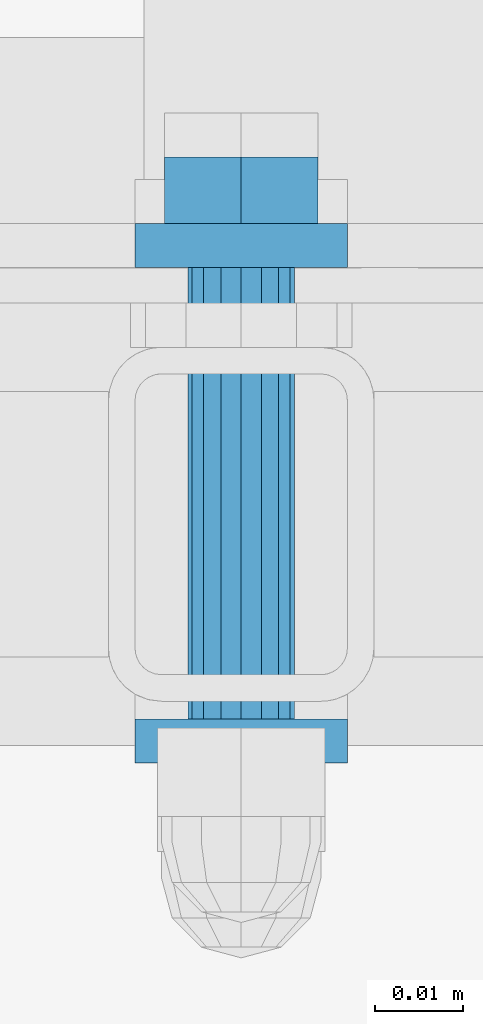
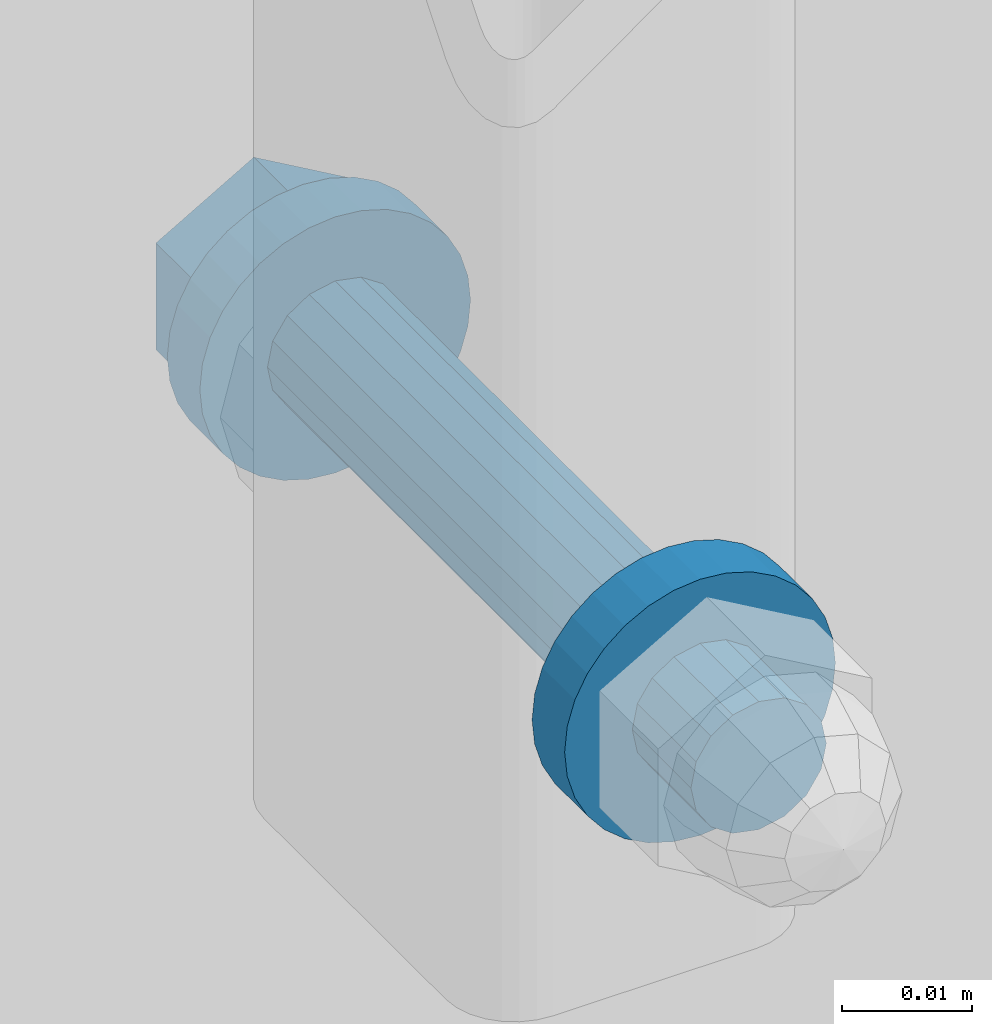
# One storey, part 66 of 116: 1 mechanical fastener.
"""IFC2X3 building model written with IfcOpenShell, lengths in millimetres."""

from ifc_helpers import new_model, entity, si_unit, converted_unit, origin_with_axes, place, context, project, spatial, faceted_brep, element, save


model = new_model("IFC2X3")

# Units and contexts
model_context = context("Model", 3, precision=1e-09, world=origin_with_axes())
ifc_project = project(units=[si_unit("LENGTHUNIT", "METRE", prefix="MILLI"), si_unit("AREAUNIT", "SQUARE_METRE"), si_unit("VOLUMEUNIT", "CUBIC_METRE"), converted_unit("PLANEANGLEUNIT", "DEGREE", entity("IfcPlaneAngleMeasure", 0.01745329), si_unit("PLANEANGLEUNIT", "RADIAN"), dimensions=[0, 0, 0, 0, 0, 0, 0])], contexts=[model_context])

# Site, building, storey
site_placement = place(None, origin_with_axes())
site = spatial("IfcSite", under=ifc_project, at=site_placement, Name="Site", CompositionType="ELEMENT")
building_placement = place(site_placement, origin_with_axes())
building = spatial("IfcBuilding", under=site, at=building_placement, Name="Struktur 1", CompositionType="ELEMENT")
storey_placement = place(building_placement, origin_with_axes())
storey = spatial("IfcBuildingStorey", under=building, at=storey_placement, Name="Default Storey", CompositionType="ELEMENT", Elevation=0.0)

# Mechanical fastener
mechanical_fastener_placement = place(None, origin_with_axes())
element("IfcMechanicalFastener", 1, at=mechanical_fastener_placement, inside=storey, ObjectType="-", NominalDiameter=12.0, NominalLength=70.0, context=model_context, shape_type="Brep", body=[
    faceted_brep([(59725.049134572, 9076.358883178, -923.0), (59725.049134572, 9078.858883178, -923.0), (59725.279711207, 9078.858883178, -925.341083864), (59725.279711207, 9076.358883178, -925.341083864), (59725.962580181, 9078.858883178, -927.592201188), (59725.962580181, 9076.358883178, -927.592201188), (59727.071499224, 9078.858883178, -929.666842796), (59727.071499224, 9076.358883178, -929.666842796), (59728.563853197, 9078.858883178, -931.485281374), (59728.563853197, 9076.358883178, -931.485281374), (59730.382291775, 9078.858883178, -932.977635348), (59730.382291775, 9076.358883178, -932.977635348), (59732.456933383, 9078.858883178, -934.08655439), (59732.456933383, 9076.358883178, -934.08655439), (59734.708050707, 9078.858883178, -934.769423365), (59734.708050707, 9076.358883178, -934.769423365), (59737.049134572, 9078.858883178, -935.0), (59737.049134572, 9076.358883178, -935.0), (59739.390218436, 9078.858883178, -934.769423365), (59739.390218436, 9076.358883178, -934.769423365), (59741.64133576, 9078.858883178, -934.08655439), (59741.64133576, 9076.358883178, -934.08655439), (59743.715977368, 9078.858883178, -932.977635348), (59743.715977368, 9076.358883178, -932.977635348), (59745.534415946, 9078.858883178, -931.485281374), (59745.534415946, 9076.358883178, -931.485281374), (59747.026769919, 9078.858883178, -929.666842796), (59747.026769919, 9076.358883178, -929.666842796), (59748.135688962, 9078.858883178, -927.592201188), (59748.135688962, 9076.358883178, -927.592201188), (59748.818557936, 9078.858883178, -925.341083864), (59748.818557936, 9076.358883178, -925.341083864), (59749.049134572, 9078.858883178, -923.0), (59749.049134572, 9076.358883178, -923.0), (59748.818557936, 9078.858883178, -920.658916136), (59748.818557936, 9076.358883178, -920.658916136), (59748.135688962, 9078.858883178, -918.407798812), (59748.135688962, 9076.358883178, -918.407798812), (59747.026769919, 9078.858883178, -916.333157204), (59747.026769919, 9076.358883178, -916.333157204), (59745.534415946, 9078.858883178, -914.514718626), (59745.534415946, 9076.358883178, -914.514718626), (59743.715977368, 9078.858883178, -913.022364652), (59743.715977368, 9076.358883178, -913.022364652), (59741.64133576, 9078.858883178, -911.91344561), (59741.64133576, 9076.358883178, -911.91344561), (59739.390218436, 9078.858883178, -911.230576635), (59739.390218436, 9076.358883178, -911.230576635), (59737.049134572, 9078.858883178, -911.0), (59737.049134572, 9076.358883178, -911.0), (59734.708050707, 9078.858883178, -911.230576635), (59734.708050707, 9076.358883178, -911.230576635), (59732.456933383, 9078.858883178, -911.91344561), (59732.456933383, 9076.358883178, -911.91344561), (59730.382291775, 9078.858883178, -913.022364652), (59730.382291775, 9076.358883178, -913.022364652), (59728.563853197, 9078.858883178, -914.514718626), (59728.563853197, 9076.358883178, -914.514718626), (59727.071499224, 9078.858883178, -916.333157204), (59727.071499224, 9076.358883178, -916.333157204), (59725.962580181, 9078.858883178, -918.407798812), (59725.962580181, 9076.358883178, -918.407798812), (59725.279711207, 9078.858883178, -920.658916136), (59725.279711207, 9076.358883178, -920.658916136)], [[[0, 1, 2, 3]], [[3, 2, 4, 5]], [[5, 4, 6, 7]], [[7, 6, 8, 9]], [[9, 8, 10, 11]], [[11, 10, 12, 13]], [[13, 12, 14, 15]], [[15, 14, 16, 17]], [[17, 16, 18, 19]], [[19, 18, 20, 21]], [[21, 20, 22, 23]], [[23, 22, 24, 25]], [[25, 24, 26, 27]], [[27, 26, 28, 29]], [[29, 28, 30, 31]], [[31, 30, 32, 33]], [[33, 32, 34, 35]], [[35, 34, 36, 37]], [[37, 36, 38, 39]], [[39, 38, 40, 41]], [[41, 40, 42, 43]], [[43, 42, 44, 45]], [[45, 44, 46, 47]], [[47, 46, 48, 49]], [[49, 48, 50, 51]], [[51, 50, 52, 53]], [[53, 52, 54, 55]], [[55, 54, 56, 57]], [[57, 56, 58, 59]], [[59, 58, 60, 61]], [[61, 60, 62, 63]], [[63, 62, 1, 0]], [[2, 1, 62, 60, 58, 56, 54, 52, 50, 48, 46, 44, 42, 40, 38, 36, 34, 32, 30, 28, 26, 24, 22, 20, 18, 16, 14, 12, 10, 8, 6, 4]], [[63, 0, 3, 5, 7, 9, 11, 13, 15, 17, 19, 21, 23, 25, 27, 29, 31, 33, 35, 37, 39, 41, 43, 45, 47, 49, 51, 53, 55, 57, 59, 61]]]),
    faceted_brep([(59725.049134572, 9078.858883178, -923.0), (59725.049134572, 9081.358883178, -923.0), (59725.279711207, 9081.358883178, -925.341083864), (59725.279711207, 9078.858883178, -925.341083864), (59725.962580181, 9081.358883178, -927.592201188), (59725.962580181, 9078.858883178, -927.592201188), (59727.071499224, 9081.358883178, -929.666842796), (59727.071499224, 9078.858883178, -929.666842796), (59728.563853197, 9081.358883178, -931.485281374), (59728.563853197, 9078.858883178, -931.485281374), (59730.382291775, 9081.358883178, -932.977635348), (59730.382291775, 9078.858883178, -932.977635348), (59732.456933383, 9081.358883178, -934.08655439), (59732.456933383, 9078.858883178, -934.08655439), (59734.708050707, 9081.358883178, -934.769423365), (59734.708050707, 9078.858883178, -934.769423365), (59737.049134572, 9081.358883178, -935.0), (59737.049134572, 9078.858883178, -935.0), (59739.390218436, 9081.358883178, -934.769423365), (59739.390218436, 9078.858883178, -934.769423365), (59741.64133576, 9081.358883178, -934.08655439), (59741.64133576, 9078.858883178, -934.08655439), (59743.715977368, 9081.358883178, -932.977635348), (59743.715977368, 9078.858883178, -932.977635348), (59745.534415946, 9081.358883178, -931.485281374), (59745.534415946, 9078.858883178, -931.485281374), (59747.026769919, 9081.358883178, -929.666842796), (59747.026769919, 9078.858883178, -929.666842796), (59748.135688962, 9081.358883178, -927.592201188), (59748.135688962, 9078.858883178, -927.592201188), (59748.818557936, 9081.358883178, -925.341083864), (59748.818557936, 9078.858883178, -925.341083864), (59749.049134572, 9081.358883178, -923.0), (59749.049134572, 9078.858883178, -923.0), (59748.818557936, 9081.358883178, -920.658916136), (59748.818557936, 9078.858883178, -920.658916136), (59748.135688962, 9081.358883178, -918.407798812), (59748.135688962, 9078.858883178, -918.407798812), (59747.026769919, 9081.358883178, -916.333157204), (59747.026769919, 9078.858883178, -916.333157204), (59745.534415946, 9081.358883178, -914.514718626), (59745.534415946, 9078.858883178, -914.514718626), (59743.715977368, 9081.358883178, -913.022364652), (59743.715977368, 9078.858883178, -913.022364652), (59741.64133576, 9081.358883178, -911.91344561), (59741.64133576, 9078.858883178, -911.91344561), (59739.390218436, 9081.358883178, -911.230576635), (59739.390218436, 9078.858883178, -911.230576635), (59737.049134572, 9081.358883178, -911.0), (59737.049134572, 9078.858883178, -911.0), (59734.708050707, 9081.358883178, -911.230576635), (59734.708050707, 9078.858883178, -911.230576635), (59732.456933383, 9081.358883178, -911.91344561), (59732.456933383, 9078.858883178, -911.91344561), (59730.382291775, 9081.358883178, -913.022364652), (59730.382291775, 9078.858883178, -913.022364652), (59728.563853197, 9081.358883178, -914.514718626), (59728.563853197, 9078.858883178, -914.514718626), (59727.071499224, 9081.358883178, -916.333157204), (59727.071499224, 9078.858883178, -916.333157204), (59725.962580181, 9081.358883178, -918.407798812), (59725.962580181, 9078.858883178, -918.407798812), (59725.279711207, 9081.358883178, -920.658916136), (59725.279711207, 9078.858883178, -920.658916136)], [[[0, 1, 2, 3]], [[3, 2, 4, 5]], [[5, 4, 6, 7]], [[7, 6, 8, 9]], [[9, 8, 10, 11]], [[11, 10, 12, 13]], [[13, 12, 14, 15]], [[15, 14, 16, 17]], [[17, 16, 18, 19]], [[19, 18, 20, 21]], [[21, 20, 22, 23]], [[23, 22, 24, 25]], [[25, 24, 26, 27]], [[27, 26, 28, 29]], [[29, 28, 30, 31]], [[31, 30, 32, 33]], [[33, 32, 34, 35]], [[35, 34, 36, 37]], [[37, 36, 38, 39]], [[39, 38, 40, 41]], [[41, 40, 42, 43]], [[43, 42, 44, 45]], [[45, 44, 46, 47]], [[47, 46, 48, 49]], [[49, 48, 50, 51]], [[51, 50, 52, 53]], [[53, 52, 54, 55]], [[55, 54, 56, 57]], [[57, 56, 58, 59]], [[59, 58, 60, 61]], [[61, 60, 62, 63]], [[63, 62, 1, 0]], [[2, 1, 62, 60, 58, 56, 54, 52, 50, 48, 46, 44, 42, 40, 38, 36, 34, 32, 30, 28, 26, 24, 22, 20, 18, 16, 14, 12, 10, 8, 6, 4]], [[63, 0, 3, 5, 7, 9, 11, 13, 15, 17, 19, 21, 23, 25, 27, 29, 31, 33, 35, 37, 39, 41, 43, 45, 47, 49, 51, 53, 55, 57, 59, 61]]]),
    faceted_brep([(59745.722378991, 9088.858883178, -928.0075), (59745.722378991, 9081.358883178, -928.0075), (59737.049134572, 9081.358883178, -933.015), (59737.049134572, 9088.858883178, -933.015), (59728.375890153, 9081.358883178, -928.0075), (59728.375890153, 9088.858883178, -928.0075), (59728.375890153, 9081.358883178, -917.9925), (59728.375890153, 9088.858883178, -917.9925), (59737.049134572, 9081.358883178, -912.985), (59737.049134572, 9088.858883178, -912.985), (59745.722378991, 9081.358883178, -917.9925), (59745.722378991, 9088.858883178, -917.9925)], [[[0, 1, 2, 3]], [[3, 2, 4, 5]], [[5, 4, 6, 7]], [[7, 6, 8, 9]], [[9, 8, 10, 11]], [[11, 10, 1, 0]], [[3, 5, 7, 9, 11, 0]], [[2, 1, 10, 8, 6, 4]]]),
    faceted_brep([(59731.049134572, 9025.359883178, -923.0), (59731.049134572, 9076.358883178, -923.0), (59731.505857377, 9076.358883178, -925.296100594), (59731.505857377, 9025.359883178, -925.296100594), (59732.806493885, 9076.358883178, -927.242640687), (59732.806493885, 9025.359883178, -927.242640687), (59734.753033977, 9076.358883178, -928.543277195), (59734.753033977, 9025.359883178, -928.543277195), (59737.049134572, 9076.358883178, -929.0), (59737.049134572, 9025.359883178, -929.0), (59739.345235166, 9076.358883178, -928.543277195), (59739.345235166, 9025.359883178, -928.543277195), (59741.291775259, 9076.358883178, -927.242640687), (59741.291775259, 9025.359883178, -927.242640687), (59742.592411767, 9076.358883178, -925.296100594), (59742.592411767, 9025.359883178, -925.296100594), (59743.049134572, 9076.358883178, -923.0), (59743.049134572, 9025.359883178, -923.0), (59742.592411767, 9076.358883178, -920.703899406), (59742.592411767, 9025.359883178, -920.703899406), (59741.291775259, 9076.358883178, -918.757359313), (59741.291775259, 9025.359883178, -918.757359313), (59739.345235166, 9076.358883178, -917.456722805), (59739.345235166, 9025.359883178, -917.456722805), (59737.049134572, 9076.358883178, -917.0), (59737.049134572, 9025.359883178, -917.0), (59734.753033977, 9076.358883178, -917.456722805), (59734.753033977, 9025.359883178, -917.456722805), (59732.806493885, 9076.358883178, -918.757359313), (59732.806493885, 9025.359883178, -918.757359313), (59731.505857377, 9076.358883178, -920.703899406), (59731.505857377, 9025.359883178, -920.703899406)], [[[0, 1, 2, 3]], [[3, 2, 4, 5]], [[5, 4, 6, 7]], [[7, 6, 8, 9]], [[9, 8, 10, 11]], [[11, 10, 12, 13]], [[13, 12, 14, 15]], [[15, 14, 16, 17]], [[17, 16, 18, 19]], [[19, 18, 20, 21]], [[21, 20, 22, 23]], [[23, 22, 24, 25]], [[25, 24, 26, 27]], [[27, 26, 28, 29]], [[29, 28, 30, 31]], [[31, 30, 1, 0]], [[2, 1, 30, 28, 26, 24, 22, 20, 18, 16, 14, 12, 10, 8, 6, 4]], [[31, 0, 3, 5, 7, 9, 11, 13, 15, 17, 19, 21, 23, 25, 27, 29]]]),
    faceted_brep([(59725.049134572, 9022.859883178, -923.0), (59725.049134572, 9025.359883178, -923.0), (59725.279711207, 9025.359883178, -925.341083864), (59725.279711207, 9022.859883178, -925.341083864), (59725.962580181, 9025.359883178, -927.592201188), (59725.962580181, 9022.859883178, -927.592201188), (59727.071499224, 9025.359883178, -929.666842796), (59727.071499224, 9022.859883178, -929.666842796), (59728.563853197, 9025.359883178, -931.485281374), (59728.563853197, 9022.859883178, -931.485281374), (59730.382291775, 9025.359883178, -932.977635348), (59730.382291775, 9022.859883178, -932.977635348), (59732.456933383, 9025.359883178, -934.08655439), (59732.456933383, 9022.859883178, -934.08655439), (59734.708050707, 9025.359883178, -934.769423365), (59734.708050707, 9022.859883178, -934.769423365), (59737.049134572, 9025.359883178, -935.0), (59737.049134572, 9022.859883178, -935.0), (59739.390218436, 9025.359883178, -934.769423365), (59739.390218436, 9022.859883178, -934.769423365), (59741.64133576, 9025.359883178, -934.08655439), (59741.64133576, 9022.859883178, -934.08655439), (59743.715977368, 9025.359883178, -932.977635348), (59743.715977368, 9022.859883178, -932.977635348), (59745.534415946, 9025.359883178, -931.485281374), (59745.534415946, 9022.859883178, -931.485281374), (59747.026769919, 9025.359883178, -929.666842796), (59747.026769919, 9022.859883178, -929.666842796), (59748.135688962, 9025.359883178, -927.592201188), (59748.135688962, 9022.859883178, -927.592201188), (59748.818557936, 9025.359883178, -925.341083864), (59748.818557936, 9022.859883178, -925.341083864), (59749.049134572, 9025.359883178, -923.0), (59749.049134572, 9022.859883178, -923.0), (59748.818557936, 9025.359883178, -920.658916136), (59748.818557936, 9022.859883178, -920.658916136), (59748.135688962, 9025.359883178, -918.407798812), (59748.135688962, 9022.859883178, -918.407798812), (59747.026769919, 9025.359883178, -916.333157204), (59747.026769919, 9022.859883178, -916.333157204), (59745.534415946, 9025.359883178, -914.514718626), (59745.534415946, 9022.859883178, -914.514718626), (59743.715977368, 9025.359883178, -913.022364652), (59743.715977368, 9022.859883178, -913.022364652), (59741.64133576, 9025.359883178, -911.91344561), (59741.64133576, 9022.859883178, -911.91344561), (59739.390218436, 9025.359883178, -911.230576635), (59739.390218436, 9022.859883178, -911.230576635), (59737.049134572, 9025.359883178, -911.0), (59737.049134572, 9022.859883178, -911.0), (59734.708050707, 9025.359883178, -911.230576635), (59734.708050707, 9022.859883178, -911.230576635), (59732.456933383, 9025.359883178, -911.91344561), (59732.456933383, 9022.859883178, -911.91344561), (59730.382291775, 9025.359883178, -913.022364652), (59730.382291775, 9022.859883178, -913.022364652), (59728.563853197, 9025.359883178, -914.514718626), (59728.563853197, 9022.859883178, -914.514718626), (59727.071499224, 9025.359883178, -916.333157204), (59727.071499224, 9022.859883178, -916.333157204), (59725.962580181, 9025.359883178, -918.407798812), (59725.962580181, 9022.859883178, -918.407798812), (59725.279711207, 9025.359883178, -920.658916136), (59725.279711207, 9022.859883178, -920.658916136)], [[[0, 1, 2, 3]], [[3, 2, 4, 5]], [[5, 4, 6, 7]], [[7, 6, 8, 9]], [[9, 8, 10, 11]], [[11, 10, 12, 13]], [[13, 12, 14, 15]], [[15, 14, 16, 17]], [[17, 16, 18, 19]], [[19, 18, 20, 21]], [[21, 20, 22, 23]], [[23, 22, 24, 25]], [[25, 24, 26, 27]], [[27, 26, 28, 29]], [[29, 28, 30, 31]], [[31, 30, 32, 33]], [[33, 32, 34, 35]], [[35, 34, 36, 37]], [[37, 36, 38, 39]], [[39, 38, 40, 41]], [[41, 40, 42, 43]], [[43, 42, 44, 45]], [[45, 44, 46, 47]], [[47, 46, 48, 49]], [[49, 48, 50, 51]], [[51, 50, 52, 53]], [[53, 52, 54, 55]], [[55, 54, 56, 57]], [[57, 56, 58, 59]], [[59, 58, 60, 61]], [[61, 60, 62, 63]], [[63, 62, 1, 0]], [[2, 1, 62, 60, 58, 56, 54, 52, 50, 48, 46, 44, 42, 40, 38, 36, 34, 32, 30, 28, 26, 24, 22, 20, 18, 16, 14, 12, 10, 8, 6, 4]], [[63, 0, 3, 5, 7, 9, 11, 13, 15, 17, 19, 21, 23, 25, 27, 29, 31, 33, 35, 37, 39, 41, 43, 45, 47, 49, 51, 53, 55, 57, 59, 61]]]),
    faceted_brep([(59725.049134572, 9020.359883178, -923.0), (59725.049134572, 9022.859883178, -923.0), (59725.279711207, 9022.859883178, -925.341083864), (59725.279711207, 9020.359883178, -925.341083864), (59725.962580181, 9022.859883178, -927.592201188), (59725.962580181, 9020.359883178, -927.592201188), (59727.071499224, 9022.859883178, -929.666842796), (59727.071499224, 9020.359883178, -929.666842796), (59728.563853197, 9022.859883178, -931.485281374), (59728.563853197, 9020.359883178, -931.485281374), (59730.382291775, 9022.859883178, -932.977635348), (59730.382291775, 9020.359883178, -932.977635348), (59732.456933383, 9022.859883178, -934.08655439), (59732.456933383, 9020.359883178, -934.08655439), (59734.708050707, 9022.859883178, -934.769423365), (59734.708050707, 9020.359883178, -934.769423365), (59737.049134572, 9022.859883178, -935.0), (59737.049134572, 9020.359883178, -935.0), (59739.390218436, 9022.859883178, -934.769423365), (59739.390218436, 9020.359883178, -934.769423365), (59741.64133576, 9022.859883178, -934.08655439), (59741.64133576, 9020.359883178, -934.08655439), (59743.715977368, 9022.859883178, -932.977635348), (59743.715977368, 9020.359883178, -932.977635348), (59745.534415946, 9022.859883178, -931.485281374), (59745.534415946, 9020.359883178, -931.485281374), (59747.026769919, 9022.859883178, -929.666842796), (59747.026769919, 9020.359883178, -929.666842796), (59748.135688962, 9022.859883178, -927.592201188), (59748.135688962, 9020.359883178, -927.592201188), (59748.818557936, 9022.859883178, -925.341083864), (59748.818557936, 9020.359883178, -925.341083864), (59749.049134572, 9022.859883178, -923.0), (59749.049134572, 9020.359883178, -923.0), (59748.818557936, 9022.859883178, -920.658916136), (59748.818557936, 9020.359883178, -920.658916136), (59748.135688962, 9022.859883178, -918.407798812), (59748.135688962, 9020.359883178, -918.407798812), (59747.026769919, 9022.859883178, -916.333157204), (59747.026769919, 9020.359883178, -916.333157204), (59745.534415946, 9022.859883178, -914.514718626), (59745.534415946, 9020.359883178, -914.514718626), (59743.715977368, 9022.859883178, -913.022364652), (59743.715977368, 9020.359883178, -913.022364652), (59741.64133576, 9022.859883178, -911.91344561), (59741.64133576, 9020.359883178, -911.91344561), (59739.390218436, 9022.859883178, -911.230576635), (59739.390218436, 9020.359883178, -911.230576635), (59737.049134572, 9022.859883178, -911.0), (59737.049134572, 9020.359883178, -911.0), (59734.708050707, 9022.859883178, -911.230576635), (59734.708050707, 9020.359883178, -911.230576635), (59732.456933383, 9022.859883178, -911.91344561), (59732.456933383, 9020.359883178, -911.91344561), (59730.382291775, 9022.859883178, -913.022364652), (59730.382291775, 9020.359883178, -913.022364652), (59728.563853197, 9022.859883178, -914.514718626), (59728.563853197, 9020.359883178, -914.514718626), (59727.071499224, 9022.859883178, -916.333157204), (59727.071499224, 9020.359883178, -916.333157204), (59725.962580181, 9022.859883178, -918.407798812), (59725.962580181, 9020.359883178, -918.407798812), (59725.279711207, 9022.859883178, -920.658916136), (59725.279711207, 9020.359883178, -920.658916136)], [[[0, 1, 2, 3]], [[3, 2, 4, 5]], [[5, 4, 6, 7]], [[7, 6, 8, 9]], [[9, 8, 10, 11]], [[11, 10, 12, 13]], [[13, 12, 14, 15]], [[15, 14, 16, 17]], [[17, 16, 18, 19]], [[19, 18, 20, 21]], [[21, 20, 22, 23]], [[23, 22, 24, 25]], [[25, 24, 26, 27]], [[27, 26, 28, 29]], [[29, 28, 30, 31]], [[31, 30, 32, 33]], [[33, 32, 34, 35]], [[35, 34, 36, 37]], [[37, 36, 38, 39]], [[39, 38, 40, 41]], [[41, 40, 42, 43]], [[43, 42, 44, 45]], [[45, 44, 46, 47]], [[47, 46, 48, 49]], [[49, 48, 50, 51]], [[51, 50, 52, 53]], [[53, 52, 54, 55]], [[55, 54, 56, 57]], [[57, 56, 58, 59]], [[59, 58, 60, 61]], [[61, 60, 62, 63]], [[63, 62, 1, 0]], [[2, 1, 62, 60, 58, 56, 54, 52, 50, 48, 46, 44, 42, 40, 38, 36, 34, 32, 30, 28, 26, 24, 22, 20, 18, 16, 14, 12, 10, 8, 6, 4]], [[63, 0, 3, 5, 7, 9, 11, 13, 15, 17, 19, 21, 23, 25, 27, 29, 31, 33, 35, 37, 39, 41, 43, 45, 47, 49, 51, 53, 55, 57, 59, 61]]]),
    faceted_brep([(59731.049134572, 9011.358883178, -923.0), (59731.049134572, 9020.359883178, -923.0), (59731.505857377, 9020.359883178, -925.296100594), (59731.505857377, 9011.358883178, -925.296100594), (59732.806493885, 9020.359883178, -927.242640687), (59732.806493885, 9011.358883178, -927.242640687), (59734.753033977, 9020.359883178, -928.543277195), (59734.753033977, 9011.358883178, -928.543277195), (59737.049134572, 9020.359883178, -929.0), (59737.049134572, 9011.358883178, -929.0), (59739.345235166, 9020.359883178, -928.543277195), (59739.345235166, 9011.358883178, -928.543277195), (59741.291775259, 9020.359883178, -927.242640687), (59741.291775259, 9011.358883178, -927.242640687), (59742.592411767, 9020.359883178, -925.296100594), (59742.592411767, 9011.358883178, -925.296100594), (59743.049134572, 9020.359883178, -923.0), (59743.049134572, 9011.358883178, -923.0), (59742.592411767, 9020.359883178, -920.703899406), (59742.592411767, 9011.358883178, -920.703899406), (59741.291775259, 9020.359883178, -918.757359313), (59741.291775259, 9011.358883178, -918.757359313), (59739.345235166, 9020.359883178, -917.456722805), (59739.345235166, 9011.358883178, -917.456722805), (59737.049134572, 9020.359883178, -917.0), (59737.049134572, 9011.358883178, -917.0), (59734.753033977, 9020.359883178, -917.456722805), (59734.753033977, 9011.358883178, -917.456722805), (59732.806493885, 9020.359883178, -918.757359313), (59732.806493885, 9011.358883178, -918.757359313), (59731.505857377, 9020.359883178, -920.703899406), (59731.505857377, 9011.358883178, -920.703899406)], [[[0, 1, 2, 3]], [[3, 2, 4, 5]], [[5, 4, 6, 7]], [[7, 6, 8, 9]], [[9, 8, 10, 11]], [[11, 10, 12, 13]], [[13, 12, 14, 15]], [[15, 14, 16, 17]], [[17, 16, 18, 19]], [[19, 18, 20, 21]], [[21, 20, 22, 23]], [[23, 22, 24, 25]], [[25, 24, 26, 27]], [[27, 26, 28, 29]], [[29, 28, 30, 31]], [[31, 30, 1, 0]], [[2, 1, 30, 28, 26, 24, 22, 20, 18, 16, 14, 12, 10, 8, 6, 4]], [[31, 0, 3, 5, 7, 9, 11, 13, 15, 17, 19, 21, 23, 25, 27, 29]]]),
])

save(model, "model.ifc")
